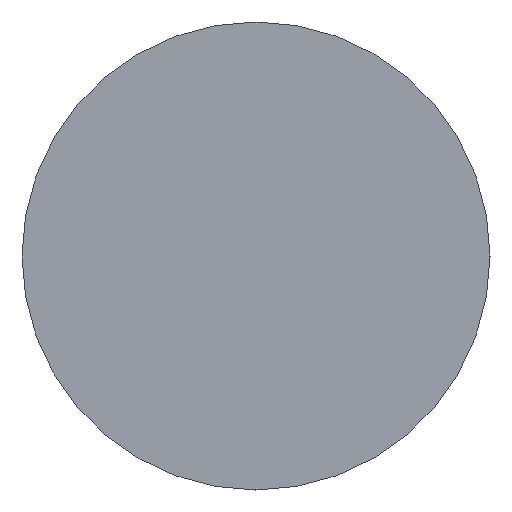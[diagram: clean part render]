
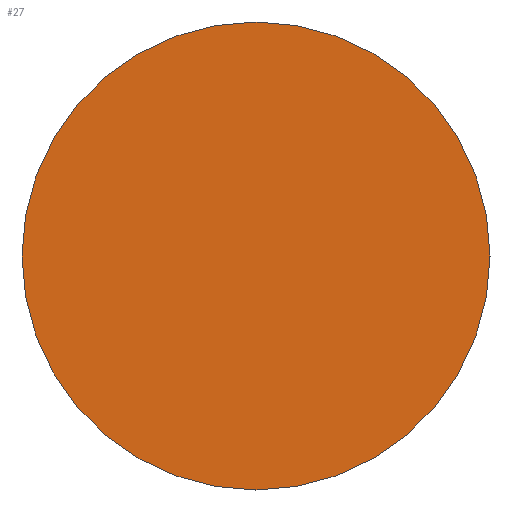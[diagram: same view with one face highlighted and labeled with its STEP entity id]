
A CAD part, left-side view. The second image highlights one B-rep face of the part: STEP entity #27.
In plain terms, the highlighted planar face has unit normal (-1, 0, 0).
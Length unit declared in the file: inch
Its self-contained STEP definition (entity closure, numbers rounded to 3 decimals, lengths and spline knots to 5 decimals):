
#27 = ADVANCED_FACE ( 'NONE', ( #416 ), #490, .F. ) ;
#52 = EDGE_CURVE ( 'NONE', #471, #66, #99, .T. ) ;
#55 = DIRECTION ( 'NONE',  ( 0., 0., 1. ) ) ;
#66 = VERTEX_POINT ( 'NONE', #215 ) ;
#81 = CARTESIAN_POINT ( 'NONE',  ( -4., 0., 0. ) ) ;
#99 = CIRCLE ( 'NONE', #218, 0.1875 ) ;
#102 = AXIS2_PLACEMENT_3D ( 'NONE', #81, #436, #194 ) ;
#177 = DIRECTION ( 'NONE',  ( 0., 0., -1. ) ) ;
#194 = DIRECTION ( 'NONE',  ( 0., 0., 1. ) ) ;
#206 = CARTESIAN_POINT ( 'NONE',  ( -4., 0., 0.1875 ) ) ;
#215 = CARTESIAN_POINT ( 'NONE',  ( -4., 0., -0.1875 ) ) ;
#217 = CARTESIAN_POINT ( 'NONE',  ( -4., 0.1875, 0. ) ) ;
#218 = AXIS2_PLACEMENT_3D ( 'NONE', #252, #289, #55 ) ;
#245 = DIRECTION ( 'NONE',  ( 1., 0., 0. ) ) ;
#250 = CIRCLE ( 'NONE', #102, 0.1875 ) ;
#252 = CARTESIAN_POINT ( 'NONE',  ( -4., 0., 0. ) ) ;
#289 = DIRECTION ( 'NONE',  ( -1., 0., 0. ) ) ;
#318 = AXIS2_PLACEMENT_3D ( 'NONE', #217, #245, #177 ) ;
#349 = EDGE_LOOP ( 'NONE', ( #509, #437 ) ) ;
#409 = EDGE_CURVE ( 'NONE', #66, #471, #250, .T. ) ;
#416 = FACE_OUTER_BOUND ( 'NONE', #349, .T. ) ;
#436 = DIRECTION ( 'NONE',  ( -1., 0., 0. ) ) ;
#437 = ORIENTED_EDGE ( 'NONE', *, *, #409, .T. ) ;
#471 = VERTEX_POINT ( 'NONE', #206 ) ;
#490 = PLANE ( 'NONE',  #318 ) ;
#509 = ORIENTED_EDGE ( 'NONE', *, *, #52, .T. ) ;
